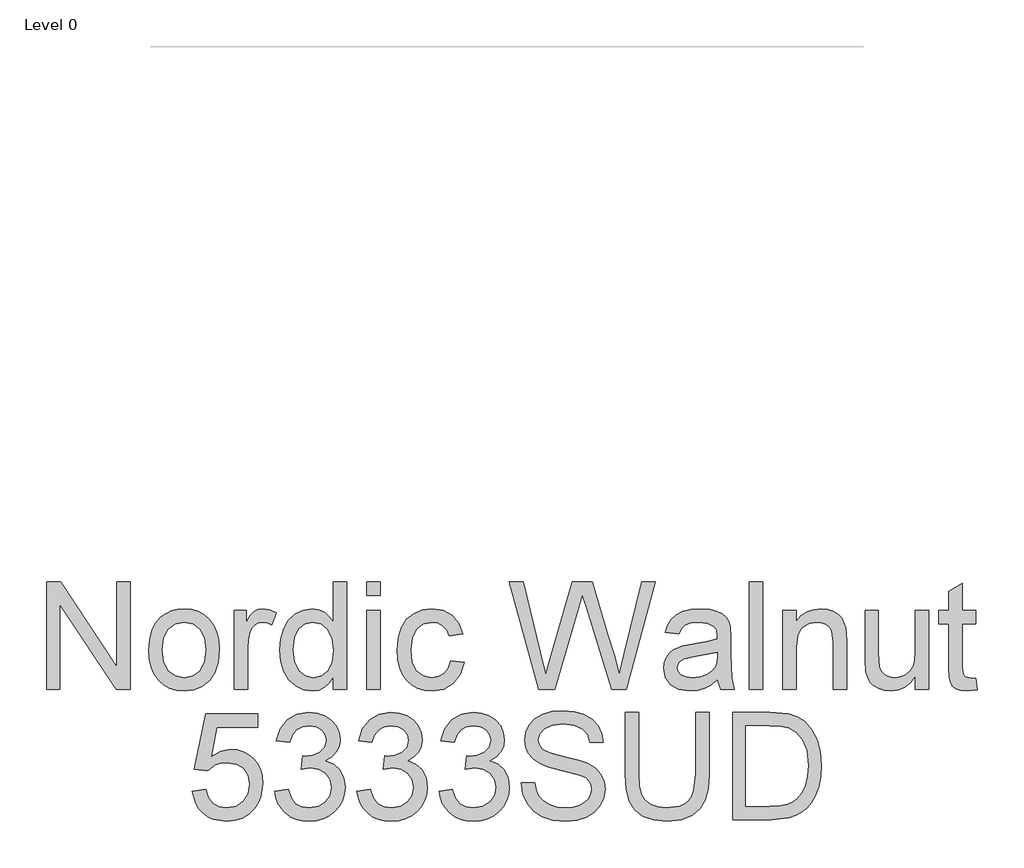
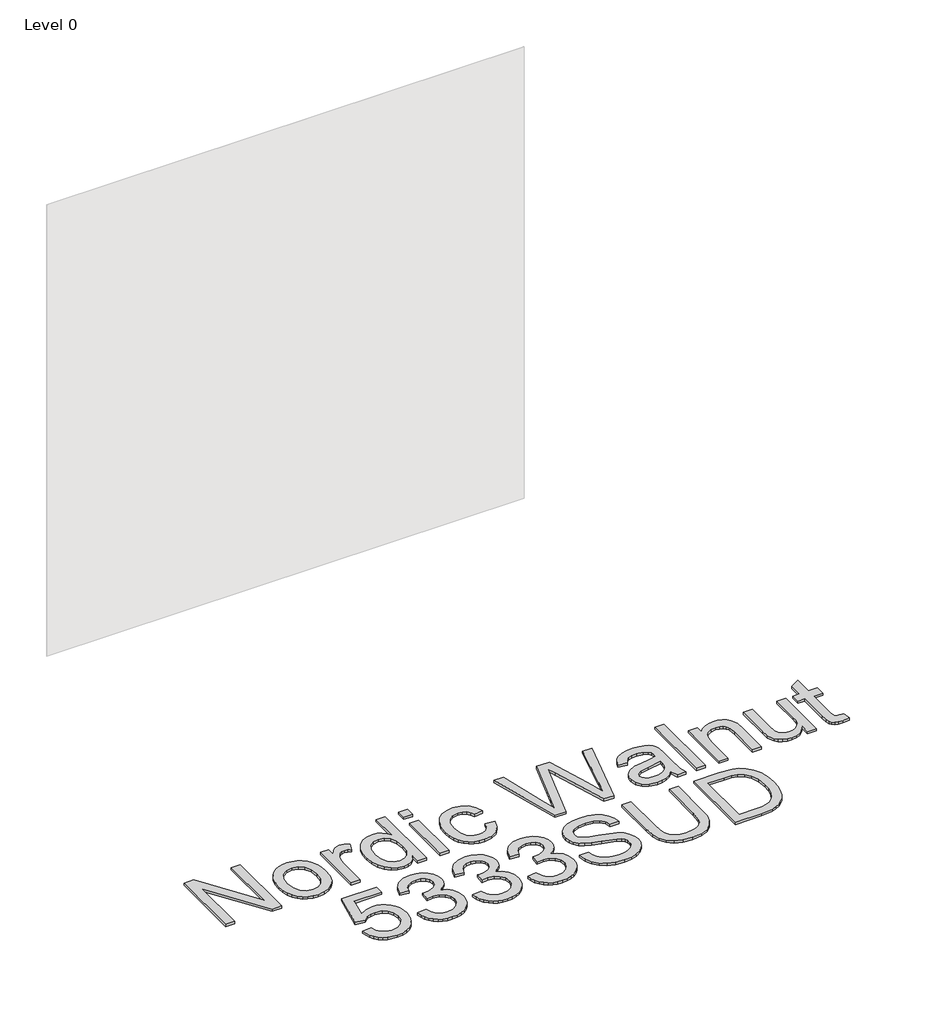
# One storey, part 11 of 43: 1 proxy.
"""IFC4 building model written with IfcOpenShell, lengths in millimetres."""

import ifcopenshell
import ifcopenshell.guid

model = None  # the IFC model being written
_history = None  # IfcOwnerHistory: only IFC2X3 demands one
_inside = {}  # id of a spatial element -> (the spatial element, [elements in it])
_under = {}  # id of a project, library or spatial element -> (it, [spatial elements below it])
_declared = {}  # id of a project -> (the project, [libraries it declares])
_typed = {}  # id of a type object -> (the type object, [elements of that type])
_made_of = {}  # id of a material, layer set ... -> (it, [elements and type objects made of it])


def new_model(schema):
    """Start an empty IFC model of exactly this schema.

    Asked for "IFC4X3", IfcOpenShell would pick the latest addendum, in which some entities
    have other attributes; the version numbers below select the first issue.
    IFC2X3 requires an IfcOwnerHistory on every rooted entity: one is made here for all.
    """
    global model, _history
    if schema == "IFC4X3":
        model = ifcopenshell.file(schema_version=(4, 3, 0, 0))
    else:
        model = ifcopenshell.file(schema=schema)
    _inside.clear()
    _under.clear()
    _declared.clear()
    _typed.clear()
    _made_of.clear()
    _history = None
    if model.schema == "IFC2X3":
        org = make("IfcOrganization", Name="unknown")
        user = make(
            "IfcPersonAndOrganization",
            ThePerson=make("IfcPerson", FamilyName="unknown"),
            TheOrganization=org,
        )
        app = make(
            "IfcApplication",
            ApplicationDeveloper=org,
            Version="unknown",
            ApplicationFullName="unknown",
            ApplicationIdentifier="unknown",
        )
        _history = make(
            "IfcOwnerHistory",
            OwningUser=user,
            OwningApplication=app,
            ChangeAction="ADDED",
            CreationDate=0,
        )
    return model


def make(cls, **values):
    """One entity of the class cls with the attributes given. An attribute that is None is left unset."""
    return model.create_entity(
        cls, **{name: value for name, value in values.items() if value is not None}
    )


def rooted(cls, **values):
    """An entity with a GlobalId (a new one), such as an element, a storey or a relation."""
    return make(cls, GlobalId=ifcopenshell.guid.new(), OwnerHistory=_history, **values)


def si_unit(unit_type, name, prefix=None):
    """IfcSIUnit, for example si_unit("LENGTHUNIT", "METRE", prefix="MILLI")."""
    return make("IfcSIUnit", UnitType=unit_type, Prefix=prefix, Name=name)


def assignment(units):
    """IfcUnitAssignment: the units of a project."""
    return None if units is None else make("IfcUnitAssignment", Units=units)


def point(xyz):
    """IfcCartesianPoint."""
    return None if xyz is None else make("IfcCartesianPoint", Coordinates=xyz)


def direction(xyz):
    """IfcDirection."""
    return None if xyz is None else make("IfcDirection", DirectionRatios=xyz)


def frame(location, z_axis=None, x_axis=None):
    """IfcAxis2Placement3D, a coordinate frame: its origin and axes. An axis left out is left unset."""
    return make(
        "IfcAxis2Placement3D",
        Location=point(location),
        Axis=direction(z_axis),
        RefDirection=direction(x_axis),
    )


def origin():
    """The frame at (0, 0, 0) with its axes left unset."""
    return frame((0.0, 0.0, 0.0))


def origin_with_axes():
    """The frame at (0, 0, 0) with the z axis (0, 0, 1) and the x axis (1, 0, 0) written out."""
    return frame((0.0, 0.0, 0.0), z_axis=(0.0, 0.0, 1.0), x_axis=(1.0, 0.0, 0.0))


def place(relative_to, where):
    """IfcLocalPlacement: puts the frame where relative to a parent placement (None: the world)."""
    return make(
        "IfcLocalPlacement", PlacementRelTo=relative_to, RelativePlacement=where
    )


def context(
    kind, dimensions, precision=None, world=None, true_north=None, identifier=None
):
    """IfcGeometricRepresentationContext, for example the 3D "Model" context."""
    return make(
        "IfcGeometricRepresentationContext",
        ContextIdentifier=identifier,
        ContextType=kind,
        CoordinateSpaceDimension=dimensions,
        Precision=precision,
        WorldCoordinateSystem=world,
        TrueNorth=true_north,
    )


def project(units=None, contexts=None):
    """IfcProject with its units and contexts."""
    return rooted(
        "IfcProject",
        Name="project",
        RepresentationContexts=contexts,
        UnitsInContext=assignment(units),
    )


def spatial(cls, under=None, at=None, **own):
    """A site, building, storey or space (cls), placed at a placement, below another one or the project."""
    s = rooted(cls, ObjectPlacement=at, **own)
    if under is not None:
        _under.setdefault(under.id(), (under, []))[1].append(s)
    return s


def polyline(points):
    """IfcPolyline through the points."""
    return make("IfcPolyline", Points=[point(p) for p in points])


def outline(outer, holes=None, kind="AREA"):
    """IfcArbitraryClosedProfileDef: a profile drawn as a closed curve; with holes, ...WithVoids."""
    if holes is None:
        return make("IfcArbitraryClosedProfileDef", ProfileType=kind, OuterCurve=outer)
    return make(
        "IfcArbitraryProfileDefWithVoids",
        ProfileType=kind,
        OuterCurve=outer,
        InnerCurves=holes,
    )


def extrude(swept, where, along, depth):
    """IfcExtrudedAreaSolid: the profile swept, set in the frame where, extruded along a direction by depth."""
    return make(
        "IfcExtrudedAreaSolid",
        SweptArea=swept,
        Position=where,
        ExtrudedDirection=direction(along),
        Depth=depth,
    )


def shape(context_of_items, identifier, shape_type, items):
    """IfcShapeRepresentation: the items that make up one representation, for example the "Body"."""
    return make(
        "IfcShapeRepresentation",
        ContextOfItems=context_of_items,
        RepresentationIdentifier=identifier,
        RepresentationType=shape_type,
        Items=items,
    )


def made_of(thing, what):
    """Note that an element or type object is made of a material, layer set ...; save() writes the relation."""
    if what is not None:
        _made_of.setdefault(what.id(), (what, []))[1].append(thing)
    return thing


def element(
    cls,
    number,
    at=None,
    inside=None,
    cuts=None,
    type_object=None,
    material=None,
    context=None,
    identifier="Body",
    shape_type=None,
    held_by="IfcProductDefinitionShape",
    body=None,
    shapes=None,
    **own,
):
    """One element of the class cls, such as IfcWall. Its Tag is "e" and its number.

    at: its placement. inside: the storey or other place that contains it. cuts: it is an
    opening in that element (IfcRelVoidsElement). A single representation is given by context,
    identifier, shape_type and body (its items); several are given by shapes. held_by: the class
    of the entity that holds the representations. save() writes the other relations.
    """
    e = rooted(cls, Tag="e%d" % number, ObjectPlacement=at, **own)
    if body is not None:
        shapes = [shape(context, identifier, shape_type, body)]
    if shapes is not None:
        e.Representation = make(held_by, Representations=shapes)
    if inside is not None:
        _inside.setdefault(inside.id(), (inside, []))[1].append(e)
    if cuts is not None:
        rooted(
            "IfcRelVoidsElement", RelatingBuildingElement=cuts, RelatedOpeningElement=e
        )
    if type_object is not None:
        _typed.setdefault(type_object.id(), (type_object, []))[1].append(e)
    return made_of(e, material)


def aggregate(whole, parts):
    """IfcRelAggregates: a whole, such as a stair, and the parts it consists of."""
    return rooted("IfcRelAggregates", RelatingObject=whole, RelatedObjects=parts)


def save(model, path):
    """Write the relations noted so far, then the file.

    IfcRelAggregates (storeys below a building ...), IfcRelContainedInSpatialStructure (elements
    in a storey), IfcRelDefinesByType, IfcRelAssociatesMaterial and IfcRelDeclares: one each for
    every whole, place, type object, material and project.
    """
    for whole, parts in _under.values():
        aggregate(whole, parts)
    for where, things in _inside.values():
        rooted(
            "IfcRelContainedInSpatialStructure",
            RelatedElements=things,
            RelatingStructure=where,
        )
    for kind, things in _typed.values():
        rooted("IfcRelDefinesByType", RelatedObjects=things, RelatingType=kind)
    for what, things in _made_of.values():
        rooted("IfcRelAssociatesMaterial", RelatedObjects=things, RelatingMaterial=what)
    for by, libraries in _declared.values():
        rooted("IfcRelDeclares", RelatingContext=by, RelatedDefinitions=libraries)
    model.write(path)


model = new_model("IFC4")

# Units and contexts
model_context = context("Model", 3, world=origin())
ifc_project = project(units=[si_unit("LENGTHUNIT", "METRE", prefix="MILLI")], contexts=[model_context])

# Site, building, storey
site = spatial("IfcSite", under=ifc_project)
building = spatial("IfcBuilding", under=site)
storey = spatial("IfcBuildingStorey", under=building, Name="Level 0", Elevation=0.0)

# Proxy
placement = place(None, origin())
element("IfcBuildingElementProxy", 1, Name="300mm Arial", ObjectType="300mm Arial", at=placement, inside=storey, context=model_context, shape_type="SweptSolid", body=[
    extrude(outline(polyline([(-10743.2482346, -12002.860494), (-10743.2482346, -11701.4915635), (-10702.9283679, -11701.4915635), (-10545.474874, -11940.2469784), (-10545.474874, -11701.4915635), (-10507.8037576, -11701.4915635), (-10507.8037576, -12002.860494), (-10548.1236243, -12002.860494), (-10705.5771183, -11764.0315027), (-10705.5771183, -12002.860494), (-10743.2482346, -12002.860494)])), origin_with_axes(), (0.0, 0.0, 1.0), 10.0),
    extrude(outline(polyline([(-10456.0059727, -11892.2015898), (-10453.9688262, -11863.5389839), (-10447.8573865, -11838.8403064), (-10437.6716538, -11818.1055575), (-10423.411628, -11801.334737), (-10409.0550331, -11790.6155754), (-10393.2085161, -11782.9590314), (-10375.8720771, -11778.3651049), (-10357.045716, -11776.8337961), (-10336.2626826, -11778.698498), (-10317.4708104, -11784.2926036), (-10300.6700995, -11793.6161129), (-10285.86055, -11806.669026), (-10273.7733272, -11823.0098843), (-10265.1395966, -11842.1972296), (-10259.9593582, -11864.2310619), (-10258.2326121, -11889.1113811), (-10261.2860327, -11927.1687735), (-10270.4462944, -11956.1394806), (-10285.4466827, -11977.8353213), (-10306.0204833, -11994.0681143), (-10330.4570448, -12004.1940662), (-10357.045716, -12007.5693835), (-10378.1322521, -12005.7115794), (-10397.0988682, -12000.1381672), (-10413.9455644, -11990.8491468), (-10428.6723405, -11977.8445183), (-10440.6308046, -11961.3450108), (-10449.1725647, -11941.5713536), (-10454.2976207, -11918.5235466), (-10456.0059727, -11892.2015898)]), holes=[polyline([(-10418.3348564, -11892.1280134), (-10413.9754548, -11926.2214773), (-10400.8972498, -11950.5108861), (-10381.2155631, -11965.0514219), (-10357.045716, -11969.8982672), (-10332.9862335, -11965.0238308), (-10313.341335, -11950.4005215), (-10300.2631301, -11925.789216), (-10295.9037284, -11890.950791), (-10300.2907212, -11857.8506085), (-10313.4516996, -11833.8922936), (-10333.1241893, -11819.3517577), (-10357.045716, -11814.5049125), (-10381.2155631, -11819.3333636), (-10400.8972498, -11833.8187172), (-10413.9754548, -11858.0529436), (-10418.3348564, -11892.1280134)])]), origin_with_axes(), (0.0, 0.0, 1.0), 10.0),
    extrude(outline(polyline([(-10215.8526063, -12002.860494), (-10215.8526063, -11781.5426857), (-10182.8903795, -11781.5426857), (-10182.8903795, -11814.2841833), (-10170.7134855, -11795.3014723), (-10159.4930846, -11784.1178596), (-10148.2358956, -11778.654812), (-10135.9486369, -11776.8337961), (-10117.1866552, -11779.7400639), (-10098.1303678, -11788.4588672), (-10110.7119321, -11822.2304343), (-10123.9556839, -11816.4362929), (-10137.1994357, -11814.5049125), (-10148.4474277, -11816.3627165), (-10158.4998032, -11821.9361288), (-10166.6207983, -11830.8020848), (-10172.0746488, -11842.5375205), (-10176.6547797, -11863.5803706), (-10178.18149, -11886.5362071), (-10178.18149, -12002.860494), (-10215.8526063, -12002.860494)])), origin_with_axes(), (0.0, 0.0, 1.0), 10.0),
    extrude(outline(polyline([(-9938.0281235, -12002.860494), (-9938.0281235, -11967.3230932), (-9949.2991081, -11984.9308452), (-9962.9521287, -11997.507811), (-9978.9871852, -12005.0539904), (-9997.4042775, -12007.5693835), (-10021.7580656, -12003.9273518), (-10044.0517145, -11993.0012565), (-10062.9240609, -11975.5544529), (-10077.0139413, -11952.350296), (-10085.7879269, -11924.3268851), (-10088.7125887, -11892.422319), (-10086.0178531, -11860.9132261), (-10077.9336463, -11832.4575538), (-10064.4691653, -11808.6739828), (-10045.6336071, -11791.181194), (-10022.8525146, -11780.4206456), (-9997.5514303, -11776.8337961), (-9979.1205424, -11779.3997731), (-9962.82337, -11787.0977038), (-9949.0094011, -11798.8975188), (-9938.0281235, -11813.7691485), (-9938.0281235, -11701.4915635), (-9900.3570072, -11701.4915635), (-9900.3570072, -12002.860494), (-9938.0281235, -12002.860494)]), holes=[polyline([(-10051.0414724, -11892.2751662), (-10046.7924354, -11926.350236), (-10034.0453243, -11950.5844625), (-10015.5224658, -11965.069816), (-9993.9461868, -11969.8982672), (-9972.3791048, -11965.2905452), (-9954.3252959, -11951.4673793), (-9942.1024166, -11928.1712519), (-9938.0281235, -11895.1446458), (-9942.175993, -11859.037028), (-9954.6196015, -11834.0026582), (-9973.1332629, -11819.3793489), (-9995.4912912, -11814.5049125), (-10017.2882994, -11819.1862108), (-10035.1489702, -11833.230106), (-10047.0683469, -11857.3539678), (-10051.0414724, -11892.2751662)])]), origin_with_axes(), (0.0, 0.0, 1.0), 10.0),
    extrude(outline(polyline([(-9843.8503328, -11739.1626798), (-9843.8503328, -11701.4915635), (-9806.1792164, -11701.4915635), (-9806.1792164, -11739.1626798), (-9843.8503328, -11739.1626798)])), origin_with_axes(), (0.0, 0.0, 1.0), 10.0),
    extrude(outline(polyline([(-9843.8503328, -12002.860494), (-9843.8503328, -11781.5426857), (-9806.1792164, -11781.5426857), (-9806.1792164, -12002.860494), (-9843.8503328, -12002.860494)])), origin_with_axes(), (0.0, 0.0, 1.0), 10.0),
    extrude(outline(polyline([(-9608.4058558, -11922.8093718), (-9570.7347395, -11927.5182614), (-9581.2377705, -11961.0231141), (-9600.9746395, -11986.3425924), (-9628.0875426, -12002.2626857), (-9660.7186756, -12007.5693835), (-9681.8465984, -12005.7184772), (-9700.7902219, -12000.1657584), (-9717.549546, -11990.9112269), (-9732.1245708, -11977.9548829), (-9743.9220865, -11961.5404481), (-9752.3488835, -11941.9116444), (-9757.4049617, -11919.0684718), (-9759.0903211, -11893.0109302), (-9756.2116445, -11859.4876834), (-9747.5756146, -11830.4342028), (-9733.0442758, -11806.9725286), (-9712.4796723, -11790.2247008), (-9687.8775638, -11780.1815223), (-9661.2337103, -11776.8337961), (-9629.4027207, -11781.4323211), (-9603.9544837, -11795.2278959), (-9585.6983397, -11817.4847566), (-9575.4436291, -11847.4671392), (-9613.1147454, -11852.1760288), (-9619.9481534, -11835.7409006), (-9630.5891401, -11823.9594797), (-9644.4490943, -11816.8685543), (-9660.9394048, -11814.5049125), (-9685.2839958, -11819.1586197), (-9704.6069976, -11833.1197414), (-9717.216153, -11857.1424357), (-9721.4192048, -11891.9808606), (-9717.3081235, -11927.2883351), (-9704.9748796, -11951.3938029), (-9686.0013657, -11965.2721511), (-9661.9694743, -11969.8982672), (-9642.4625315, -11967.0103936), (-9626.4688618, -11958.3467726), (-9614.8345937, -11943.6866751), (-9608.4058558, -11922.8093718)])), origin_with_axes(), (0.0, 0.0, 1.0), 10.0),
    extrude(outline(polyline([(-9361.4098843, -12002.860494), (-9443.594722, -11701.4915635), (-9404.7463833, -11701.4915635), (-9357.0688767, -11899.5592297), (-9342.3535969, -11960.7012173), (-9326.6082475, -11906.622564), (-9266.8642115, -11701.4915635), (-9210.8725719, -11701.4915635), (-9167.4624964, -11850.189466), (-9148.8660616, -11905.3717653), (-9135.1624572, -11960.7012173), (-9120.8886358, -11901.3250633), (-9072.7696709, -11701.4915635), (-9033.9213322, -11701.4915635), (-9116.1797463, -12002.860494), (-9156.4260366, -12002.860494), (-9228.6780604, -11770.359073), (-9238.7580271, -11737.9118811), (-9250.0887925, -11776.9809489), (-9315.9396697, -12002.860494), (-9361.4098843, -12002.860494)])), origin_with_axes(), (0.0, 0.0, 1.0), 10.0),
    extrude(outline(polyline([(-8859.6924193, -11974.6071568), (-8877.6910459, -11990.0398064), (-8896.2231014, -12000.1381672), (-8915.7116501, -12005.7115794), (-8936.5797562, -12007.5693835), (-8968.061258, -12003.0996173), (-8991.2838089, -11989.6903186), (-9005.6036156, -11969.3280501), (-9010.3768845, -11943.9993748), (-9008.5742627, -11928.3827841), (-9003.1663974, -11914.2009331), (-8994.8246731, -11902.0608273), (-8984.2204746, -11892.5694718), (-8957.8433356, -11880.2086368), (-8925.2489908, -11874.5432541), (-8886.7317459, -11868.5835657), (-8859.9131485, -11861.5938078), (-8859.6924193, -11853.2060983), (-8862.2859873, -11836.3938912), (-8870.0666915, -11825.3942195), (-8887.4675099, -11817.2272392), (-8911.7109334, -11814.5049125), (-8934.1517351, -11816.3167313), (-8949.8235081, -11821.7521878), (-8960.51048, -11831.8045633), (-8967.9968786, -11847.4671392), (-9005.6679949, -11842.7582497), (-8999.1288925, -11822.156858), (-8989.3708226, -11805.9700502), (-8975.4832772, -11793.590821), (-8956.5557486, -11784.4121652), (-8933.406774, -11778.7283884), (-8906.854891, -11776.8337961), (-8881.3882599, -11778.5076592), (-8861.2007354, -11783.5292485), (-8845.9796179, -11791.0800264), (-8835.4122076, -11800.3414556), (-8828.4040556, -11811.7917827), (-8823.8607129, -11825.9092543), (-8822.0213029, -11858.8714811), (-8822.0213029, -11905.7396473), (-8820.1083166, -11971.1858542), (-8812.6035239, -12002.860494), (-8850.2746402, -12002.860494), (-8859.6924193, -11974.6071568)]), holes=[polyline([(-8859.6924193, -11899.2649241), (-8920.4665249, -11910.8164188), (-8952.8769286, -11916.9232599), (-8967.5554202, -11926.8560738), (-8972.7057682, -11941.3506244), (-8969.900668, -11952.5526311), (-8961.4853673, -11961.7312869), (-8947.6438073, -11967.8565221), (-8928.5599288, -11969.8982672), (-8908.326419, -11967.64499), (-8890.4473541, -11960.8851583), (-8875.9528034, -11950.9247533), (-8865.8728368, -11939.069756), (-8861.4030705, -11926.8560738), (-8859.9131485, -11909.933502), (-8859.6924193, -11899.2649241)])]), origin_with_axes(), (0.0, 0.0, 1.0), 10.0),
    extrude(outline(polyline([(-8770.223518, -12002.860494), (-8770.223518, -11701.4915635), (-8732.5524017, -11701.4915635), (-8732.5524017, -12002.860494), (-8770.223518, -12002.860494)])), origin_with_axes(), (0.0, 0.0, 1.0), 10.0),
    extrude(outline(polyline([(-8676.0457273, -12002.860494), (-8676.0457273, -11781.5426857), (-8638.374611, -11781.5426857), (-8638.374611, -11812.4447733), (-8625.287209, -11796.8649708), (-8609.5694507, -11785.7365404), (-8591.2213362, -11779.0594822), (-8570.2428655, -11776.8337961), (-8551.6740217, -11778.6272209), (-8534.6686765, -11784.0074951), (-8520.4868256, -11792.303234), (-8510.3884648, -11802.8430532), (-8499.0944876, -11830.5445674), (-8497.1079248, -11866.964885), (-8497.1079248, -12002.860494), (-8534.7790411, -12002.860494), (-8534.7790411, -11872.0416565), (-8539.1200487, -11838.7115477), (-8545.1257222, -11828.7879309), (-8554.4607279, -11821.0900002), (-8566.4260898, -11816.1511844), (-8580.3228321, -11814.5049125), (-8602.3865548, -11818.2021265), (-8621.1945218, -11829.2937687), (-8628.7108108, -11838.3482643), (-8634.0795887, -11850.7228949), (-8638.374611, -11885.4325611), (-8638.374611, -12002.860494), (-8676.0457273, -12002.860494)])), origin_with_axes(), (0.0, 0.0, 1.0), 10.0),
    extrude(outline(polyline([(-8304.0434537, -12002.860494), (-8304.0434537, -11964.8214957), (-8317.6734817, -11983.5236966), (-8333.5475898, -11996.8824116), (-8351.665778, -12004.8976405), (-8372.0280464, -12007.5693835), (-8390.376161, -12005.6931853), (-8407.4550826, -12000.0645908), (-8421.7840863, -11991.6033049), (-8431.8824471, -11981.2290327), (-8443.1028479, -11953.4907302), (-8445.3101399, -11918.4683643), (-8445.3101399, -11781.5426857), (-8407.6390236, -11781.5426857), (-8407.6390236, -11900.7364521), (-8405.3581552, -11939.1433324), (-8399.8675164, -11951.9548229), (-8390.4589344, -11961.6944987), (-8377.7578085, -11967.8473251), (-8362.3895382, -11969.8982672), (-8346.138351, -11967.8013398), (-8330.9356276, -11961.5105577), (-8318.4000486, -11951.605335), (-8310.1502949, -11938.6650858), (-8305.570164, -11920.9423707), (-8304.0434537, -11896.6897502), (-8304.0434537, -11781.5426857), (-8266.3723374, -11781.5426857), (-8266.3723374, -12002.860494), (-8304.0434537, -12002.860494)])), origin_with_axes(), (0.0, 0.0, 1.0), 10.0),
    extrude(outline(polyline([(-8134.5234304, -11971.4433716), (-8129.8145408, -12003.96414), (-8157.9943017, -12007.5693835), (-8176.0757017, -12006.005885), (-8189.5585768, -12001.3153896), (-8199.0867205, -11994.0865084), (-8205.3039262, -11984.9078526), (-8208.7252288, -11969.1441091), (-8209.865663, -11942.1599648), (-8209.865663, -11819.213802), (-8238.1190002, -11819.213802), (-8238.1190002, -11781.5426857), (-8209.865663, -11781.5426857), (-8209.865663, -11727.758338), (-8172.1945467, -11705.6118419), (-8172.1945467, -11781.5426857), (-8134.5234304, -11781.5426857), (-8134.5234304, -11819.213802), (-8172.1945467, -11819.213802), (-8172.1945467, -11941.0563188), (-8170.2079839, -11960.4804881), (-8163.770049, -11967.3598814), (-8150.9309673, -11969.8982672), (-8134.5234304, -11971.4433716)])), origin_with_axes(), (0.0, 0.0, 1.0), 10.0),
    extrude(outline(polyline([(-10333.5748447, -12288.7338254), (-10295.9037284, -12284.0249358), (-10288.9875469, -12306.6404815), (-10276.9210175, -12322.8364863), (-10259.7593224, -12332.5761621), (-10237.557644, -12335.8227207), (-10210.5551055, -12331.3069693), (-10190.3215958, -12317.7597148), (-10177.6848493, -12296.7444558), (-10173.4726004, -12269.8246908), (-10177.4181348, -12244.4776213), (-10189.254738, -12225.0902402), (-10209.0743805, -12212.7845875), (-10236.9690328, -12208.6827032), (-10255.2435709, -12210.3197781), (-10270.0416242, -12215.2310027), (-10291.1948389, -12232.2271509), (-10328.8659552, -12227.5182614), (-10295.9037284, -12072.1249066), (-10149.9281527, -12072.1249066), (-10149.9281527, -12109.7960229), (-10265.4430992, -12109.7960229), (-10281.5563306, -12192.790201), (-10254.6457627, -12176.4562404), (-10226.4476077, -12171.0115869), (-10208.1017925, -12172.6992456), (-10191.2504978, -12177.7622215), (-10175.8937238, -12186.2005148), (-10162.0314704, -12198.0141254), (-10150.5558514, -12212.4810848), (-10142.3589807, -12228.8794248), (-10137.4408583, -12247.2091452), (-10135.8014841, -12267.470246), (-10141.7059901, -12305.1413624), (-10149.0866227, -12321.9351754), (-10159.4195082, -12337.3678251), (-10175.0728871, -12353.1729553), (-10193.3382282, -12364.4623341), (-10214.2155314, -12371.2359613), (-10237.7047968, -12373.4938371), (-10274.7045285, -12367.6904986), (-10290.3831992, -12360.4363255), (-10304.1810733, -12350.2804832), (-10315.6612908, -12337.7288093), (-10324.3869919, -12323.2871418), (-10333.5748447, -12288.7338254)])), origin_with_axes(), (0.0, 0.0, 1.0), 10.0),
    extrude(outline(polyline([(-10102.8392574, -12288.7338254), (-10065.1681411, -12284.0249358), (-10056.7344463, -12307.6981422), (-10044.3828083, -12323.6826149), (-10027.5062218, -12332.7876943), (-10005.4976814, -12335.8227207), (-9979.6723654, -12331.6472601), (-9959.7331612, -12319.1208782), (-9946.9860501, -12300.4324728), (-9942.7370131, -12277.7709419), (-9946.9492619, -12256.2590422), (-9959.5860084, -12238.8122386), (-9978.7158722, -12227.2515469), (-10002.4074727, -12223.397983), (-10028.8213999, -12227.5182614), (-10024.6275452, -12189.8471451), (-10018.5942805, -12190.2886035), (-9996.0247201, -12187.5846708), (-9975.8463926, -12179.4728728), (-9961.6093594, -12165.7508744), (-9956.8636817, -12146.2163404), (-9960.3033783, -12129.9467592), (-9970.6224683, -12116.7489926), (-9986.3678177, -12108.0025982), (-10006.0862926, -12105.0871334), (-10025.8415558, -12108.0301893), (-10041.9915754, -12116.8593572), (-10053.7821933, -12131.574637), (-10060.4592515, -12152.1760288), (-10098.1303678, -12147.4671392), (-10087.0387257, -12113.6403898), (-10067.3018566, -12088.3852908), (-10040.2993182, -12072.6583355), (-10007.4106678, -12067.4160171), (-9983.7282644, -12070.0003881), (-9961.9772414, -12077.7535011), (-9943.6383239, -12089.9855775), (-9930.192237, -12106.0068384), (-9921.9424833, -12124.4653175), (-9919.1925654, -12144.0090485), (-9921.8045275, -12162.2192072), (-9929.640414, -12178.7371088), (-9942.5898603, -12192.8085951), (-9960.5425016, -12203.6795081), (-9936.9612657, -12213.2076518), (-9919.486871, -12229.4312477), (-9908.6711403, -12251.4673793), (-9905.0658967, -12278.4331295), (-9906.8685185, -12297.5445992), (-9912.2763839, -12315.1477526), (-9921.2894927, -12331.2425899), (-9933.9078452, -12345.829111), (-9949.280714, -12357.9324287), (-9966.5573722, -12366.5776555), (-9985.7378198, -12371.7647917), (-10006.8220566, -12373.4938371), (-10025.878344, -12372.0177105), (-10043.2423741, -12367.589331), (-10058.9141471, -12360.2086985), (-10072.8936629, -12349.875813), (-10084.615303, -12337.1976797), (-10093.5134488, -12322.781304), (-10099.5881002, -12306.6266859), (-10102.8392574, -12288.7338254)])), origin_with_axes(), (0.0, 0.0, 1.0), 10.0),
    extrude(outline(polyline([(-9872.10367, -12288.7338254), (-9834.4325537, -12284.0249358), (-9825.9988589, -12307.6981422), (-9813.6472209, -12323.6826149), (-9796.7706344, -12332.7876943), (-9774.7620941, -12335.8227207), (-9748.936778, -12331.6472601), (-9728.9975739, -12319.1208782), (-9716.2504627, -12300.4324728), (-9712.0014257, -12277.7709419), (-9716.2136745, -12256.2590422), (-9728.8504211, -12238.8122386), (-9747.9802848, -12227.2515469), (-9771.6718853, -12223.397983), (-9798.0858126, -12227.5182614), (-9793.8919578, -12189.8471451), (-9787.8586931, -12190.2886035), (-9765.2891327, -12187.5846708), (-9745.1108052, -12179.4728728), (-9730.873772, -12165.7508744), (-9726.1280943, -12146.2163404), (-9729.567791, -12129.9467592), (-9739.8868809, -12116.7489926), (-9755.6322303, -12108.0025982), (-9775.3507053, -12105.0871334), (-9795.1059684, -12108.0301893), (-9811.255988, -12116.8593572), (-9823.0466059, -12131.574637), (-9829.7236641, -12152.1760288), (-9867.3947804, -12147.4671392), (-9856.3031383, -12113.6403898), (-9836.5662692, -12088.3852908), (-9809.5637308, -12072.6583355), (-9776.6750804, -12067.4160171), (-9752.992677, -12070.0003881), (-9731.241654, -12077.7535011), (-9712.9027366, -12089.9855775), (-9699.4566496, -12106.0068384), (-9691.2068959, -12124.4653175), (-9688.456978, -12144.0090485), (-9691.0689402, -12162.2192072), (-9698.9048267, -12178.7371088), (-9711.8542729, -12192.8085951), (-9729.8069142, -12203.6795081), (-9706.2256784, -12213.2076518), (-9688.7512836, -12229.4312477), (-9677.9355529, -12251.4673793), (-9674.3303094, -12278.4331295), (-9676.1329312, -12297.5445992), (-9681.5407965, -12315.1477526), (-9690.5539054, -12331.2425899), (-9703.1722578, -12345.829111), (-9718.5451267, -12357.9324287), (-9735.8217849, -12366.5776555), (-9755.0022324, -12371.7647917), (-9776.0864692, -12373.4938371), (-9795.1427566, -12372.0177105), (-9812.5067868, -12367.589331), (-9828.1785598, -12360.2086985), (-9842.1580756, -12349.875813), (-9853.8797156, -12337.1976797), (-9862.7778614, -12322.781304), (-9868.8525128, -12306.6266859), (-9872.10367, -12288.7338254)])), origin_with_axes(), (0.0, 0.0, 1.0), 10.0),
    extrude(outline(polyline([(-9641.3680826, -12288.7338254), (-9603.6969663, -12284.0249358), (-9595.2632716, -12307.6981422), (-9582.9116336, -12323.6826149), (-9566.035047, -12332.7876943), (-9544.0265067, -12335.8227207), (-9518.2011906, -12331.6472601), (-9498.2619865, -12319.1208782), (-9485.5148754, -12300.4324728), (-9481.2658383, -12277.7709419), (-9485.4780872, -12256.2590422), (-9498.1148337, -12238.8122386), (-9517.2446974, -12227.2515469), (-9540.9362979, -12223.397983), (-9567.3502252, -12227.5182614), (-9563.1563704, -12189.8471451), (-9557.1231057, -12190.2886035), (-9534.5535453, -12187.5846708), (-9514.3752179, -12179.4728728), (-9500.1381847, -12165.7508744), (-9495.3925069, -12146.2163404), (-9498.8322036, -12129.9467592), (-9509.1512935, -12116.7489926), (-9524.8966429, -12108.0025982), (-9544.6151179, -12105.0871334), (-9564.370381, -12108.0301893), (-9580.5204006, -12116.8593572), (-9592.3110186, -12131.574637), (-9598.9880768, -12152.1760288), (-9636.6591931, -12147.4671392), (-9625.5675509, -12113.6403898), (-9605.8306819, -12088.3852908), (-9578.8281434, -12072.6583355), (-9545.9394931, -12067.4160171), (-9522.2570896, -12070.0003881), (-9500.5060667, -12077.7535011), (-9482.1671492, -12089.9855775), (-9468.7210623, -12106.0068384), (-9460.4713085, -12124.4653175), (-9457.7213906, -12144.0090485), (-9460.3333528, -12162.2192072), (-9468.1692393, -12178.7371088), (-9481.1186855, -12192.8085951), (-9499.0713269, -12203.6795081), (-9475.490091, -12213.2076518), (-9458.0156962, -12229.4312477), (-9447.1999656, -12251.4673793), (-9443.594722, -12278.4331295), (-9445.3973438, -12297.5445992), (-9450.8052091, -12315.1477526), (-9459.818318, -12331.2425899), (-9472.4366704, -12345.829111), (-9487.8095393, -12357.9324287), (-9505.0861975, -12366.5776555), (-9524.266645, -12371.7647917), (-9545.3508819, -12373.4938371), (-9564.4071692, -12372.0177105), (-9581.7711994, -12367.589331), (-9597.4429724, -12360.2086985), (-9611.4224882, -12349.875813), (-9623.1441283, -12337.1976797), (-9632.042274, -12322.781304), (-9638.1169255, -12306.6266859), (-9641.3680826, -12288.7338254)])), origin_with_axes(), (0.0, 0.0, 1.0), 10.0),
    extrude(outline(polyline([(-9410.6324952, -12265.1893777), (-9372.9613789, -12265.1893777), (-9368.6387655, -12286.0942721), (-9360.8212731, -12302.8972822), (-9348.6259849, -12316.2330045), (-9331.1699843, -12326.7360355), (-9309.8328286, -12333.5510494), (-9285.9940753, -12335.8227207), (-9265.0064074, -12334.1028724), (-9246.6307018, -12328.9433274), (-9231.740678, -12320.7763471), (-9221.2100559, -12310.0341929), (-9214.9468649, -12297.700949), (-9212.8591346, -12284.7606998), (-9214.4226331, -12272.1515444), (-9219.1131285, -12261.2530403), (-9228.6412722, -12251.9548229), (-9244.7177154, -12244.1465276), (-9299.5689209, -12229.7623415), (-9335.5753712, -12220.2433949), (-9358.6139811, -12211.1843008), (-9377.3667658, -12198.510766), (-9390.6565029, -12183.1516928), (-9398.5751628, -12165.4381747), (-9401.2147162, -12145.7013056), (-9397.9497634, -12123.637583), (-9388.1549053, -12103.0637824), (-9372.0876592, -12085.6261758), (-9350.0055424, -12072.9710352), (-9323.4996447, -12065.2731044), (-9294.1610556, -12062.7071275), (-9262.3760512, -12065.3926661), (-9234.5641723, -12073.4492818), (-9211.7187004, -12086.7114277), (-9194.8329169, -12105.013557), (-9184.1459449, -12127.2152354), (-9179.8969079, -12152.1760288), (-9217.5680242, -12152.1760288), (-9224.4842057, -12129.6984389), (-9238.9051799, -12113.4748429), (-9261.4379521, -12103.6523936), (-9292.6895276, -12100.3782438), (-9324.6768671, -12103.6156054), (-9346.6210281, -12113.3276901), (-9359.3129569, -12127.6199056), (-9363.5435998, -12144.5976597), (-9360.5453616, -12159.0738162), (-9351.5506468, -12170.7172813), (-9330.2870675, -12181.1283418), (-9290.0407772, -12191.7601314), (-9248.5069, -12201.8584922), (-9223.3805597, -12210.669266), (-9201.9054482, -12224.3360821), (-9186.923454, -12241.2034716), (-9178.1218772, -12261.0874934), (-9175.1880183, -12283.8042066), (-9178.5633356, -12307.0267576), (-9188.6892875, -12328.869751), (-9205.1520068, -12347.668521), (-9227.5376262, -12361.7584014), (-9254.4573912, -12370.5599781), (-9284.5225473, -12373.4938371), (-9321.4303085, -12370.3300519), (-9351.8081642, -12360.8386964), (-9376.0056024, -12344.9829824), (-9394.372111, -12322.7261217), (-9406.162729, -12295.6132187), (-9410.6324952, -12265.1893777)])), origin_with_axes(), (0.0, 0.0, 1.0), 10.0),
    extrude(outline(polyline([(-8920.9079833, -12067.4160171), (-8883.2368669, -12067.4160171), (-8883.2368669, -12241.277048), (-8885.7936468, -12281.9923878), (-8893.4639864, -12313.3451308), (-8907.7929901, -12337.533372), (-8930.3257623, -12356.7552063), (-8961.1174853, -12369.3091794), (-9000.2233414, -12373.4938371), (-9038.4738719, -12369.8518053), (-9069.0540627, -12358.92571), (-9091.973111, -12341.0926303), (-9107.2402138, -12316.7296452), (-9115.8210613, -12284.052527), (-9118.6813439, -12241.277048), (-9118.6813439, -12067.4160171), (-9081.0102276, -12067.4160171), (-9081.0102276, -12239.9526728), (-9079.1524235, -12273.8070134), (-9073.5790113, -12297.3790523), (-9063.4806505, -12313.7038158), (-9048.0480008, -12325.8163305), (-9027.9248556, -12333.3211232), (-9003.7550086, -12335.8227207), (-8965.4400988, -12330.8747079), (-8951.0972995, -12324.6896919), (-8939.9642706, -12316.0306694), (-8931.6271449, -12303.8537754), (-8925.6720551, -12287.1151446), (-8920.9079833, -12239.9526728), (-8920.9079833, -12067.4160171)])), origin_with_axes(), (0.0, 0.0, 1.0), 10.0),
    extrude(outline(polyline([(-8817.3124134, -12368.7849475), (-8817.3124134, -12067.4160171), (-8713.3489616, -12067.4160171), (-8659.5646139, -12071.7570246), (-8635.5419196, -12080.12634), (-8615.2716217, -12093.3149095), (-8594.4311066, -12116.270746), (-8579.5870681, -12144.8183889), (-8570.7027179, -12178.406015), (-8567.7412679, -12216.4818015), (-8569.7462248, -12248.8278259), (-8575.7610954, -12277.2926953), (-8584.9213571, -12301.5269217), (-8596.3624871, -12321.1810173), (-8609.5326625, -12336.6964405), (-8623.8800603, -12348.5146496), (-8640.3519767, -12357.2794381), (-8659.8957077, -12363.6345996), (-8708.3457664, -12368.7849475), (-8817.3124134, -12368.7849475)]), holes=[polyline([(-8779.6412971, -12331.1138312), (-8712.9810796, -12331.1138312), (-8685.408324, -12329.7526678), (-8664.4942326, -12325.6691777), (-8648.712095, -12319.1024841), (-8636.535201, -12310.2917103), (-8623.447799, -12293.9853408), (-8613.6161527, -12272.8781114), (-8607.4633263, -12246.8780514), (-8605.4123842, -12215.8931903), (-8609.431495, -12174.8375597), (-8621.4888274, -12144.5240833), (-8639.303513, -12123.7019623), (-8660.5946835, -12111.1203981), (-8682.262933, -12106.5954496), (-8714.0111492, -12105.0871334), (-8779.6412971, -12105.0871334), (-8779.6412971, -12331.1138312)])]), origin_with_axes(), (0.0, 0.0, 1.0), 10.0),
])

save(model, "model.ifc")
